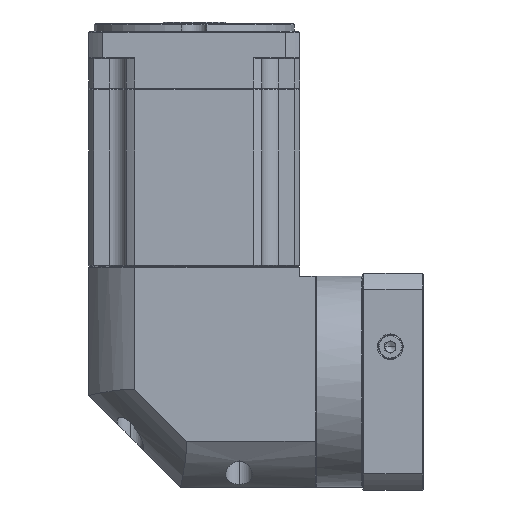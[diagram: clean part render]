
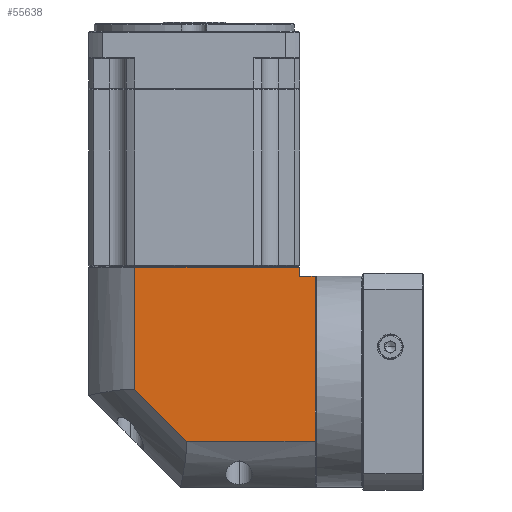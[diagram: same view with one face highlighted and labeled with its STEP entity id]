
A CAD part, left-side view. The second image highlights one B-rep face of the part: STEP entity #55638.
In plain terms, the highlighted planar face has unit normal (-1, 0, 0).
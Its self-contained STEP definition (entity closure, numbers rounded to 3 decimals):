
#2027 = DIRECTION ( 'NONE',  ( 0., 1., 0. ) ) ;
#3728 = ORIENTED_EDGE ( 'NONE', *, *, #116635, .F. ) ;
#5364 = VERTEX_POINT ( 'NONE', #58626 ) ;
#9832 = VERTEX_POINT ( 'NONE', #81538 ) ;
#14262 = DIRECTION ( 'NONE',  ( 0., 0.707, 0.707 ) ) ;
#14945 = ORIENTED_EDGE ( 'NONE', *, *, #93937, .F. ) ;
#17076 = VERTEX_POINT ( 'NONE', #93147 ) ;
#17895 = VECTOR ( 'NONE', #37330, 1000. ) ;
#19176 = DIRECTION ( 'NONE',  ( 0., 1., 0. ) ) ;
#25222 = VERTEX_POINT ( 'NONE', #146077 ) ;
#25493 = LINE ( 'NONE', #96993, #125104 ) ;
#28475 = VECTOR ( 'NONE', #42659, 1000. ) ;
#33595 = CARTESIAN_POINT ( 'NONE',  ( 25.145, 96.413, 242.9 ) ) ;
#34648 = CARTESIAN_POINT ( 'NONE',  ( 25.145, 42.975, 148. ) ) ;
#37330 = DIRECTION ( 'NONE',  ( 0., 0., -1. ) ) ;
#42659 = DIRECTION ( 'NONE',  ( 0., 0., 1. ) ) ;
#44043 = DIRECTION ( 'NONE',  ( 0., 1., 0. ) ) ;
#46136 = DIRECTION ( 'NONE',  ( 0., -1., 0. ) ) ;
#52559 = LINE ( 'NONE', #153810, #17895 ) ;
#55444 = FACE_OUTER_BOUND ( 'NONE', #138525, .T. ) ;
#55638 = ADVANCED_FACE ( 'NONE', ( #55444 ), #105443, .F. ) ;
#55744 = LINE ( 'NONE', #33595, #124852 ) ;
#56706 = VECTOR ( 'NONE', #44043, 1000. ) ;
#57187 = CARTESIAN_POINT ( 'NONE',  ( 25.145, 71.313, 242.9 ) ) ;
#58626 = CARTESIAN_POINT ( 'NONE',  ( 25.145, 71.313, 176.338 ) ) ;
#59563 = EDGE_CURVE ( 'NONE', #17076, #9832, #74659, .T. ) ;
#68226 = CARTESIAN_POINT ( 'NONE',  ( 25.145, 71.313, 249.4 ) ) ;
#74659 = LINE ( 'NONE', #141268, #105109 ) ;
#76535 = AXIS2_PLACEMENT_3D ( 'NONE', #157741, #79928, #2027 ) ;
#76768 = ORIENTED_EDGE ( 'NONE', *, *, #98047, .F. ) ;
#79928 = DIRECTION ( 'NONE',  ( 1., 0., 0. ) ) ;
#81538 = CARTESIAN_POINT ( 'NONE',  ( 25.145, -18.587, 242.9 ) ) ;
#89546 = ORIENTED_EDGE ( 'NONE', *, *, #168724, .T. ) ;
#90921 = VECTOR ( 'NONE', #14262, 1000. ) ;
#93147 = CARTESIAN_POINT ( 'NONE',  ( 25.145, -18.587, 237.9 ) ) ;
#93937 = EDGE_CURVE ( 'NONE', #144066, #9832, #55744, .T. ) ;
#96993 = CARTESIAN_POINT ( 'NONE',  ( 25.145, 96.413, 148. ) ) ;
#98047 = EDGE_CURVE ( 'NONE', #100132, #5364, #160082, .T. ) ;
#100132 = VERTEX_POINT ( 'NONE', #34648 ) ;
#105109 = VECTOR ( 'NONE', #154346, 1000. ) ;
#105182 = CARTESIAN_POINT ( 'NONE',  ( 25.145, 42.975, 148. ) ) ;
#105443 = PLANE ( 'NONE',  #76535 ) ;
#112919 = ORIENTED_EDGE ( 'NONE', *, *, #136054, .F. ) ;
#116635 = EDGE_CURVE ( 'NONE', #152618, #100132, #25493, .T. ) ;
#121864 = CARTESIAN_POINT ( 'NONE',  ( 25.145, -18.587, 237.9 ) ) ;
#124852 = VECTOR ( 'NONE', #46136, 1000. ) ;
#125104 = VECTOR ( 'NONE', #19176, 1000. ) ;
#125803 = LINE ( 'NONE', #121864, #56706 ) ;
#135490 = CARTESIAN_POINT ( 'NONE',  ( 25.145, -26.987, 148. ) ) ;
#136054 = EDGE_CURVE ( 'NONE', #25222, #152618, #52559, .T. ) ;
#138525 = EDGE_LOOP ( 'NONE', ( #168563, #76768, #3728, #112919, #89546, #163898, #14945 ) ) ;
#141268 = CARTESIAN_POINT ( 'NONE',  ( 25.145, -18.587, 122.9 ) ) ;
#144066 = VERTEX_POINT ( 'NONE', #57187 ) ;
#146077 = CARTESIAN_POINT ( 'NONE',  ( 25.145, -26.987, 237.9 ) ) ;
#152618 = VERTEX_POINT ( 'NONE', #135490 ) ;
#153810 = CARTESIAN_POINT ( 'NONE',  ( 25.145, -26.987, 249.4 ) ) ;
#154346 = DIRECTION ( 'NONE',  ( 0., 0., 1. ) ) ;
#156414 = EDGE_CURVE ( 'NONE', #5364, #144066, #166762, .T. ) ;
#157741 = CARTESIAN_POINT ( 'NONE',  ( 25.145, 96.413, 249.4 ) ) ;
#160082 = LINE ( 'NONE', #105182, #90921 ) ;
#163898 = ORIENTED_EDGE ( 'NONE', *, *, #59563, .T. ) ;
#166762 = LINE ( 'NONE', #68226, #28475 ) ;
#168563 = ORIENTED_EDGE ( 'NONE', *, *, #156414, .F. ) ;
#168724 = EDGE_CURVE ( 'NONE', #25222, #17076, #125803, .T. ) ;
